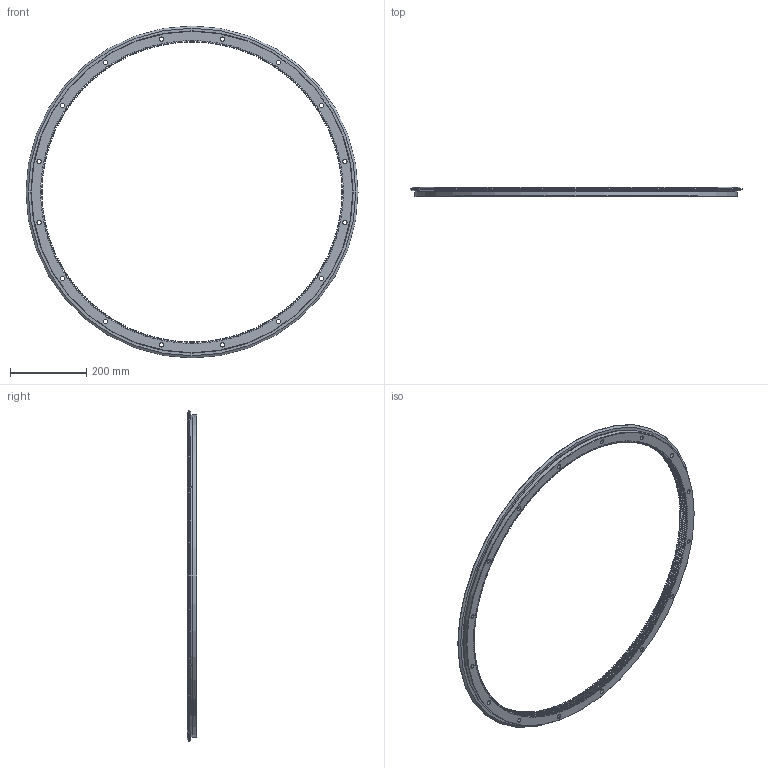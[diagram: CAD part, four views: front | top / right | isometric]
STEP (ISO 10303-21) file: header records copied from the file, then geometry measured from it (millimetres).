
FILE_DESCRIPTION( ( 'STEP AP203' ), '1' );
FILE_NAME( 'p:/temp/worker_48/temp/exporttempdir_3720_35_YQoph/format_0/REL 874 R360 Q.stp', '2021-08-30T05:11:29', ( 'License CC BY-ND 4.0' ), ( 'CADENAS' ), ' ', 'PARTsolutions', ' ' );
FILE_SCHEMA( ( 'CONFIG_CONTROL_DESIGN' ) );
Length unit declared in the file: millimetre
Products named in the file (1): _REL 874 R360 Q
Bounding box: 873.57 x 24 x 873.57 mm (x, y, z)
Volume: 1919594.5 mm3; surface area: 391742.4 mm2
Topology: 1 solids, 1 shells, 2054 faces, 6083 edges, 4049 vertices
Faces by surface type: cylinder 826, plane 812, cone 415, torus 1
Full cylindrical faces by diameter (mm): 11 x16, 18 x16, 846.8 x1, 848 x1
Entity records: 69862 total; most frequent: CARTESIAN_POINT 14510, ORIENTED_EDGE 12058, DIRECTION 11416, EDGE_CURVE 6029, AXIS2_PLACEMENT_3D 4124, VERTEX_POINT 4050, LINE 3168, VECTOR 3168
